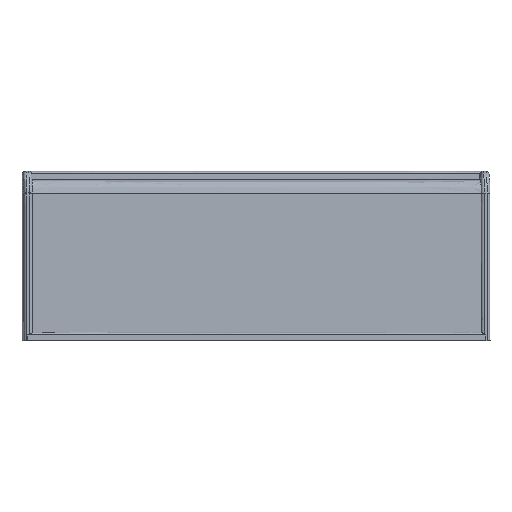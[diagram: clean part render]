
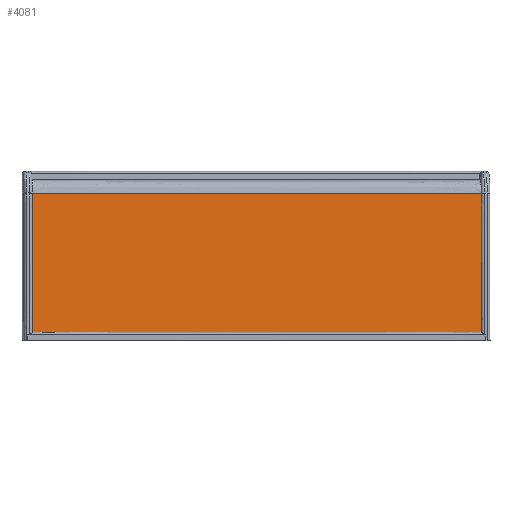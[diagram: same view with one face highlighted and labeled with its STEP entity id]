
A CAD part, top view. The second image highlights one B-rep face of the part: STEP entity #4081.
In plain terms, the highlighted free-form (B-spline) face has degree [3, 3] with [4, 6] control points.
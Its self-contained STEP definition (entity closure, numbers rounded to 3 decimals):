
#321=FACE_OUTER_BOUND('',#551,.T.);
#551=EDGE_LOOP('',(#3448,#3449,#3450,#3451));
#1372=B_SPLINE_CURVE_WITH_KNOTS('',3,(#11461,#11462,#11463,#11464,#11465,
#11466),.UNSPECIFIED.,.F.,.F.,(4,2,4),(-0.986,-0.531,
-0.001),.UNSPECIFIED.);
#1380=B_SPLINE_CURVE_WITH_KNOTS('',3,(#11622,#11623,#11624,#11625,#11626,
#11627),.UNSPECIFIED.,.F.,.F.,(4,2,4),(0.093,1.67,
3.307),.UNSPECIFIED.);
#1383=B_SPLINE_CURVE_WITH_KNOTS('',3,(#11667,#11668,#11669,#11670,#11671,
#11672),.UNSPECIFIED.,.F.,.F.,(4,2,4),(-3.246,-0.511,
-0.061),.UNSPECIFIED.);
#1384=B_SPLINE_CURVE_WITH_KNOTS('',3,(#11673,#11674,#11675,#11676,#11677,
#11678),.UNSPECIFIED.,.F.,.F.,(4,2,4),(-0.986,-0.538,
-0.001),.UNSPECIFIED.);
#1792=VERTEX_POINT('',#11412);
#1796=VERTEX_POINT('',#11423);
#1803=VERTEX_POINT('',#11621);
#1806=VERTEX_POINT('',#11666);
#2398=EDGE_CURVE('',#1792,#1796,#1372,.T.);
#2411=EDGE_CURVE('',#1803,#1792,#1380,.F.);
#2415=EDGE_CURVE('',#1806,#1796,#1383,.T.);
#2416=EDGE_CURVE('',#1806,#1803,#1384,.T.);
#3448=ORIENTED_EDGE('',*,*,#2398,.T.);
#3449=ORIENTED_EDGE('',*,*,#2415,.F.);
#3450=ORIENTED_EDGE('',*,*,#2416,.T.);
#3451=ORIENTED_EDGE('',*,*,#2411,.T.);
#3866=B_SPLINE_SURFACE_WITH_KNOTS('',3,3,((#11642,#11643,#11644,#11645,
#11646,#11647),(#11648,#11649,#11650,#11651,#11652,#11653),(#11654,#11655,
#11656,#11657,#11658,#11659),(#11660,#11661,#11662,#11663,#11664,#11665)),
 .UNSPECIFIED.,.F.,.F.,.F.,(4,4),(4,2,4),(0.257,0.292),
(0.446,0.449,0.472),.UNSPECIFIED.);
#4081=ADVANCED_FACE('',(#321),#3866,.F.);
#11412=CARTESIAN_POINT('',(-182.154,52.149,22.614));
#11423=CARTESIAN_POINT('',(-182.167,61.993,22.31));
#11461=CARTESIAN_POINT('Ctrl Pts',(-182.154,52.149,22.614));
#11462=CARTESIAN_POINT('Ctrl Pts',(-182.156,53.665,22.571));
#11463=CARTESIAN_POINT('Ctrl Pts',(-182.158,55.181,22.526));
#11464=CARTESIAN_POINT('Ctrl Pts',(-182.163,58.463,22.425));
#11465=CARTESIAN_POINT('Ctrl Pts',(-182.165,60.228,22.369));
#11466=CARTESIAN_POINT('Ctrl Pts',(-182.167,61.993,22.31));
#11621=CARTESIAN_POINT('',(-213.974,52.149,23.958));
#11622=CARTESIAN_POINT('Ctrl Pts',(-182.154,52.149,22.614));
#11623=CARTESIAN_POINT('Ctrl Pts',(-187.366,52.149,22.839));
#11624=CARTESIAN_POINT('Ctrl Pts',(-192.254,52.149,23.047));
#11625=CARTESIAN_POINT('Ctrl Pts',(-203.014,52.149,23.501));
#11626=CARTESIAN_POINT('Ctrl Pts',(-208.494,52.149,23.73));
#11627=CARTESIAN_POINT('Ctrl Pts',(-213.974,52.149,23.958));
#11642=CARTESIAN_POINT('Ctrl Pts',(-182.154,61.993,22.31));
#11643=CARTESIAN_POINT('Ctrl Pts',(-183.658,62.036,22.373));
#11644=CARTESIAN_POINT('Ctrl Pts',(-185.161,62.079,22.436));
#11645=CARTESIAN_POINT('Ctrl Pts',(-195.771,62.381,22.88));
#11646=CARTESIAN_POINT('Ctrl Pts',(-204.879,62.634,23.254));
#11647=CARTESIAN_POINT('Ctrl Pts',(-213.987,62.877,23.624));
#11648=CARTESIAN_POINT('Ctrl Pts',(-182.154,58.46,22.427));
#11649=CARTESIAN_POINT('Ctrl Pts',(-183.658,58.501,22.49));
#11650=CARTESIAN_POINT('Ctrl Pts',(-185.161,58.542,22.554));
#11651=CARTESIAN_POINT('Ctrl Pts',(-195.771,58.829,22.999));
#11652=CARTESIAN_POINT('Ctrl Pts',(-204.879,59.07,23.373));
#11653=CARTESIAN_POINT('Ctrl Pts',(-213.987,59.301,23.744));
#11654=CARTESIAN_POINT('Ctrl Pts',(-182.154,54.927,22.536));
#11655=CARTESIAN_POINT('Ctrl Pts',(-183.658,54.966,22.599));
#11656=CARTESIAN_POINT('Ctrl Pts',(-185.161,55.005,22.663));
#11657=CARTESIAN_POINT('Ctrl Pts',(-195.771,55.278,23.109));
#11658=CARTESIAN_POINT('Ctrl Pts',(-204.879,55.506,23.484));
#11659=CARTESIAN_POINT('Ctrl Pts',(-213.987,55.725,23.856));
#11660=CARTESIAN_POINT('Ctrl Pts',(-182.154,51.393,22.636));
#11661=CARTESIAN_POINT('Ctrl Pts',(-183.658,51.43,22.7));
#11662=CARTESIAN_POINT('Ctrl Pts',(-185.161,51.467,22.763));
#11663=CARTESIAN_POINT('Ctrl Pts',(-195.771,51.725,23.21));
#11664=CARTESIAN_POINT('Ctrl Pts',(-204.879,51.941,23.586));
#11665=CARTESIAN_POINT('Ctrl Pts',(-213.987,52.149,23.958));
#11666=CARTESIAN_POINT('',(-213.987,61.993,23.654));
#11667=CARTESIAN_POINT('Ctrl Pts',(-213.987,61.993,23.654));
#11668=CARTESIAN_POINT('Ctrl Pts',(-204.88,61.993,23.275));
#11669=CARTESIAN_POINT('Ctrl Pts',(-195.772,61.993,22.893));
#11670=CARTESIAN_POINT('Ctrl Pts',(-185.165,61.993,22.439));
#11671=CARTESIAN_POINT('Ctrl Pts',(-183.666,61.993,22.375));
#11672=CARTESIAN_POINT('Ctrl Pts',(-182.167,61.993,22.31));
#11673=CARTESIAN_POINT('Ctrl Pts',(-213.987,61.993,23.654));
#11674=CARTESIAN_POINT('Ctrl Pts',(-213.985,60.501,23.703));
#11675=CARTESIAN_POINT('Ctrl Pts',(-213.983,59.01,23.751));
#11676=CARTESIAN_POINT('Ctrl Pts',(-213.979,55.728,23.853));
#11677=CARTESIAN_POINT('Ctrl Pts',(-213.976,53.938,23.907));
#11678=CARTESIAN_POINT('Ctrl Pts',(-213.974,52.149,23.958));
